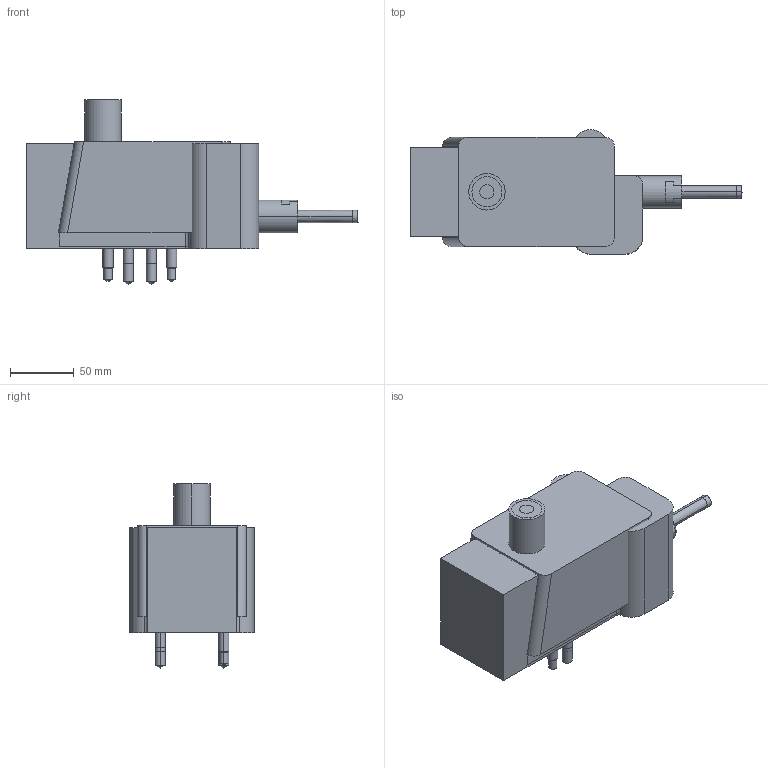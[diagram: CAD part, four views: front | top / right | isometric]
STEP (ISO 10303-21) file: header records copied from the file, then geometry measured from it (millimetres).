
FILE_DESCRIPTION((' '),'2;1');
FILE_NAME( 'EZ-00-S-L.stp', '2024-07-17T08:01:24', (' '), ('--- Datakit www.datakit.com---'), ' Datakit CrossCadWare V2020.4 Oct 21 2020', 'Export from SolidLink (Hexagon Production Software)', ' ');
FILE_SCHEMA(('AP242_MANAGED_MODEL_BASED_3D_ENGINEERING_MIM_LF { 1 0 10303 442 1 1 4 }'));
Length unit declared in the file: millimetre
Products named in the file (135): Workplanes; 1700842987; 1700503431; 1679433229; 1679433228; 1679433227; 1679433226; 1679433225; 1679433220; 1679433212; 1679433204; 1679433203; 1679433202; 1580700896; 1667491391; 1700492958; 1701203170; 1701283374; 1721290885; 1721293944; 1721293945; 1721293946; 1721293947; 1721293948; 1721293949; 1721293950; 1721293951; 1721293952; 1721293953; 1721293954; 1721293955; 1721293956; 1721293957; 1721293958; 1721293959; 1721293960; 1721293961; 1721293962; 1721293963; 1721293964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
Bounding box: 260.59 x 97.75 x 144.89 mm (x, y, z)
Volume: 2671185.7 mm3; surface area: 236115.5 mm2
Topology: 17 solids, 18 shells, 447 faces, 1293 edges, 1105 vertices
Faces by surface type: cylinder 182, plane 149, cone 104, sphere 6, torus 4, bspline 2
Entity records: 18058 total; most frequent: CARTESIAN_POINT 4635, DIRECTION 2699, ORIENTED_EDGE 2104, AXIS2_PLACEMENT_3D 1071, EDGE_CURVE 1058, VERTEX_POINT 679, VECTOR 557, LINE 557
